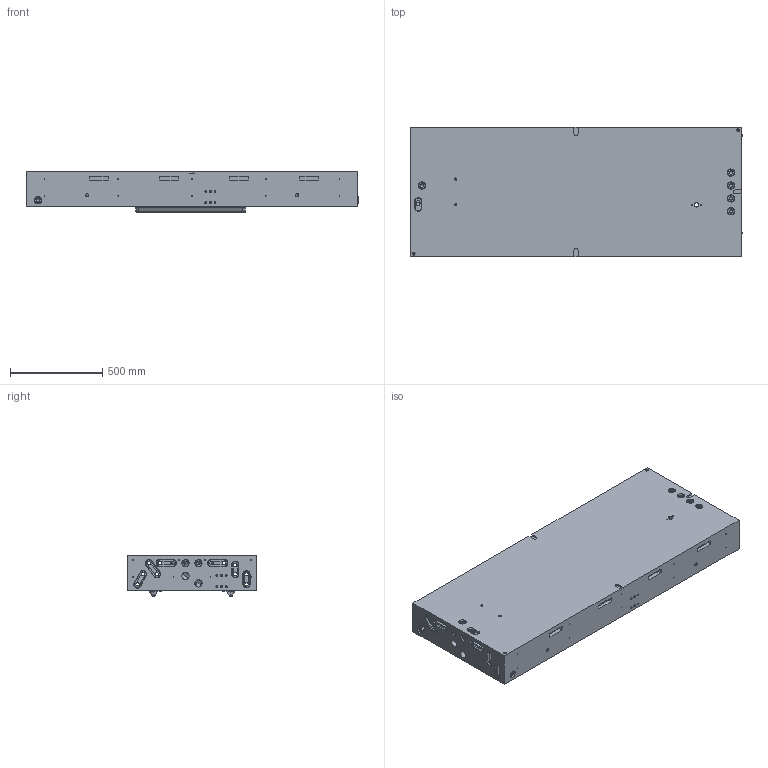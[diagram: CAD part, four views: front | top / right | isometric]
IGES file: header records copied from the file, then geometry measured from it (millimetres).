
Start section: START RECORD GO HERE.
Global section: file name: E-701-A-bloc_superieur_UDB.igs; native system: IBM CATIA IGES - CATIA Version 5 Release 18 ; preprocessor: CATIA Version 5 Release 18 ; author: e-terrisse; organization: ORDIMOULE; date: 20110106.110046; units: millimetre
Bounding box: 1800 x 700 x 219.95 mm (x, y, z)
Surface area: 5709639.8 mm2 (no closed solid volume)
Topology: 0 solids, 1127 shells, 1127 faces, 5645 edges, 5474 vertices
Faces by surface type: revolution 689, plane 262, bspline 176
